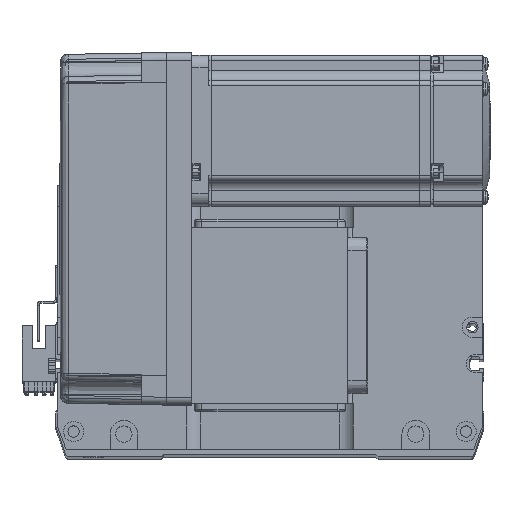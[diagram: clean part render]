
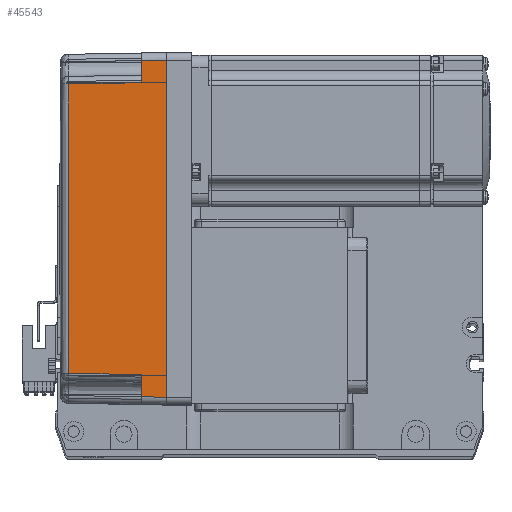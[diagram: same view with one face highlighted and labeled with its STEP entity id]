
A CAD part, top view. The second image highlights one B-rep face of the part: STEP entity #45543.
In plain terms, the highlighted planar face has unit normal (-0.018, 0, 1) as drawn and (0, 1, 0.017) by its records, which use the part's own axes.
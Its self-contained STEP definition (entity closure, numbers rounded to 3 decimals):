
#909 = DIRECTION ( 'NONE',  ( 0., -0.017, 1. ) ) ;
#1022 = ORIENTED_EDGE ( 'NONE', *, *, #36248, .F. ) ;
#3293 = VERTEX_POINT ( 'NONE', #22414 ) ;
#3474 = ORIENTED_EDGE ( 'NONE', *, *, #58842, .F. ) ;
#3717 = LINE ( 'NONE', #7401, #40073 ) ;
#4680 = LINE ( 'NONE', #52969, #41014 ) ;
#5214 = CARTESIAN_POINT ( 'NONE',  ( -58., 35.825, 10. ) ) ;
#5306 = VERTEX_POINT ( 'NONE', #36152 ) ;
#6274 = CARTESIAN_POINT ( 'NONE',  ( -67., 36., 0. ) ) ;
#7401 = CARTESIAN_POINT ( 'NONE',  ( 57.495, 35.32, 38.985 ) ) ;
#8164 = CARTESIAN_POINT ( 'NONE',  ( 66.826, 35.825, 10. ) ) ;
#8412 = FACE_OUTER_BOUND ( 'NONE', #35165, .T. ) ;
#8892 = VECTOR ( 'NONE', #34205, 1000. ) ;
#10990 = VERTEX_POINT ( 'NONE', #8164 ) ;
#11280 = B_SPLINE_CURVE_WITH_KNOTS ( 'NONE', 3,
 ( #21963, #54536, #59482, #26092 ),
 .UNSPECIFIED., .F., .F.,
 ( 4, 4 ),
 ( 0., 1. ),
 .UNSPECIFIED. ) ;
#11329 = CARTESIAN_POINT ( 'NONE',  ( 0., 36., 0. ) ) ;
#11757 = DIRECTION ( 'NONE',  ( 1., 0., 0. ) ) ;
#11778 = DIRECTION ( 'NONE',  ( 0.017, 0.017, -1. ) ) ;
#11928 = EDGE_CURVE ( 'NONE', #15105, #21932, #46822, .T. ) ;
#12365 = EDGE_CURVE ( 'NONE', #52994, #31857, #3717, .T. ) ;
#12657 = EDGE_CURVE ( 'NONE', #39858, #15105, #17041, .T. ) ;
#12829 = EDGE_CURVE ( 'NONE', #5306, #52994, #11280, .T. ) ;
#15105 = VERTEX_POINT ( 'NONE', #44618 ) ;
#15176 = CARTESIAN_POINT ( 'NONE',  ( -67., 36., 0. ) ) ;
#17041 = LINE ( 'NONE', #15176, #8892 ) ;
#17845 = CARTESIAN_POINT ( 'NONE',  ( 70., 35.825, 10. ) ) ;
#17895 = ORIENTED_EDGE ( 'NONE', *, *, #12365, .T. ) ;
#19707 = ORIENTED_EDGE ( 'NONE', *, *, #12829, .T. ) ;
#21080 = VECTOR ( 'NONE', #11757, 1000. ) ;
#21167 = LINE ( 'NONE', #56621, #59002 ) ;
#21932 = VERTEX_POINT ( 'NONE', #5214 ) ;
#21963 = CARTESIAN_POINT ( 'NONE',  ( -57.495, 35.32, 38.985 ) ) ;
#22414 = CARTESIAN_POINT ( 'NONE',  ( 67., 36., 0. ) ) ;
#24560 = DIRECTION ( 'NONE',  ( 1., 0., 0. ) ) ;
#24864 = ORIENTED_EDGE ( 'NONE', *, *, #50408, .T. ) ;
#26092 = CARTESIAN_POINT ( 'NONE',  ( 57.495, 35.32, 38.985 ) ) ;
#30303 = CARTESIAN_POINT ( 'NONE',  ( 58., 35.825, 10. ) ) ;
#30690 = ORIENTED_EDGE ( 'NONE', *, *, #12657, .T. ) ;
#31857 = VERTEX_POINT ( 'NONE', #30303 ) ;
#34086 = CARTESIAN_POINT ( 'NONE',  ( 70., 36., 0. ) ) ;
#34205 = DIRECTION ( 'NONE',  ( 0.017, -0.017, 1. ) ) ;
#35165 = EDGE_LOOP ( 'NONE', ( #30690, #49021, #24864, #19707, #17895, #43975, #1022, #3474 ) ) ;
#36152 = CARTESIAN_POINT ( 'NONE',  ( -57.495, 35.32, 38.985 ) ) ;
#36248 = EDGE_CURVE ( 'NONE', #3293, #10990, #21167, .T. ) ;
#36448 = DIRECTION ( 'NONE',  ( 1., 0., 0. ) ) ;
#39858 = VERTEX_POINT ( 'NONE', #6274 ) ;
#39921 = CARTESIAN_POINT ( 'NONE',  ( -58., 35.825, 10. ) ) ;
#40073 = VECTOR ( 'NONE', #11778, 1000. ) ;
#40877 = AXIS2_PLACEMENT_3D ( 'NONE', #34086, #47597, #909 ) ;
#41014 = VECTOR ( 'NONE', #24560, 1000. ) ;
#41823 = LINE ( 'NONE', #11329, #21080 ) ;
#42459 = VECTOR ( 'NONE', #49271, 1000. ) ;
#43975 = ORIENTED_EDGE ( 'NONE', *, *, #45577, .T. ) ;
#44618 = CARTESIAN_POINT ( 'NONE',  ( -66.826, 35.825, 10. ) ) ;
#45543 = ADVANCED_FACE ( 'NONE', ( #8412 ), #53184, .T. ) ;
#45577 = EDGE_CURVE ( 'NONE', #31857, #10990, #4680, .T. ) ;
#46822 = LINE ( 'NONE', #17845, #49029 ) ;
#47597 = DIRECTION ( 'NONE',  ( 0., 1., 0.017 ) ) ;
#48116 = DIRECTION ( 'NONE',  ( -0.017, -0.017, 1. ) ) ;
#49021 = ORIENTED_EDGE ( 'NONE', *, *, #11928, .T. ) ;
#49029 = VECTOR ( 'NONE', #36448, 1000. ) ;
#49271 = DIRECTION ( 'NONE',  ( 0.017, -0.017, 1. ) ) ;
#50408 = EDGE_CURVE ( 'NONE', #21932, #5306, #51401, .T. ) ;
#51401 = LINE ( 'NONE', #39921, #42459 ) ;
#52969 = CARTESIAN_POINT ( 'NONE',  ( 70., 35.825, 10. ) ) ;
#52994 = VERTEX_POINT ( 'NONE', #58992 ) ;
#53184 = PLANE ( 'NONE',  #40877 ) ;
#54536 = CARTESIAN_POINT ( 'NONE',  ( -19.165, 35.316, 39.181 ) ) ;
#56621 = CARTESIAN_POINT ( 'NONE',  ( 67.001, 36.001, -0.052 ) ) ;
#58842 = EDGE_CURVE ( 'NONE', #39858, #3293, #41823, .T. ) ;
#58992 = CARTESIAN_POINT ( 'NONE',  ( 57.495, 35.32, 38.985 ) ) ;
#59002 = VECTOR ( 'NONE', #48116, 1000. ) ;
#59482 = CARTESIAN_POINT ( 'NONE',  ( 19.165, 35.316, 39.181 ) ) ;
